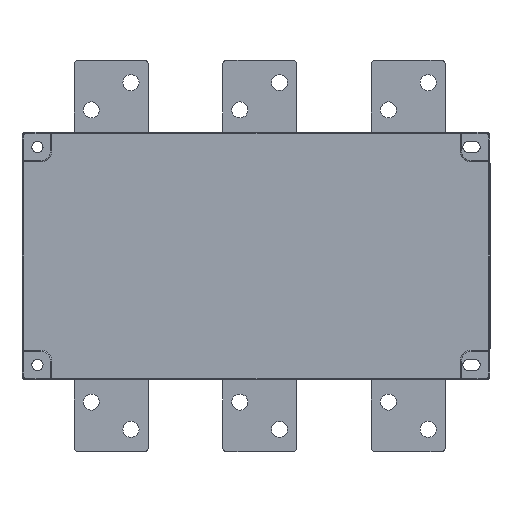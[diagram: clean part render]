
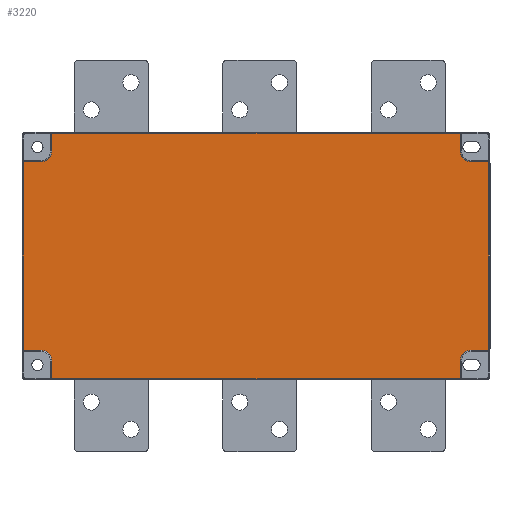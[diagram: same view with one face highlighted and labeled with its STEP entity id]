
A CAD part, front view. The second image highlights one B-rep face of the part: STEP entity #3220.
In plain terms, the highlighted planar face has unit normal (0, -1, 0).
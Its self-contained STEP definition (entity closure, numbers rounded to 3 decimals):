
#15=CARTESIAN_POINT('',(-174.,0.,-85.));
#16=DIRECTION('',(0.,-1.,0.));
#17=DIRECTION('',(1.,0.,0.));
#18=AXIS2_PLACEMENT_3D('',#15,#16,#17);
#20=DIRECTION('',(-1.,0.,0.));
#21=VECTOR('',#20,14.);
#22=CARTESIAN_POINT('',(-174.,0.,-76.));
#23=LINE('',#22,#21);
#24=CARTESIAN_POINT('',(-174.,0.,85.));
#25=DIRECTION('',(0.,-1.,0.));
#26=DIRECTION('',(0.,0.,-1.));
#27=AXIS2_PLACEMENT_3D('',#24,#25,#26);
#29=DIRECTION('',(0.,0.,1.));
#30=VECTOR('',#29,14.);
#31=CARTESIAN_POINT('',(-165.,0.,85.));
#32=LINE('',#31,#30);
#33=CARTESIAN_POINT('',(174.,0.,85.));
#34=DIRECTION('',(0.,-1.,0.));
#35=DIRECTION('',(-1.,0.,0.));
#36=AXIS2_PLACEMENT_3D('',#33,#34,#35);
#38=DIRECTION('',(1.,0.,0.));
#39=VECTOR('',#38,14.);
#40=CARTESIAN_POINT('',(174.,0.,76.));
#41=LINE('',#40,#39);
#42=CARTESIAN_POINT('',(174.,0.,-85.));
#43=DIRECTION('',(0.,-1.,0.));
#44=DIRECTION('',(0.,0.,1.));
#45=AXIS2_PLACEMENT_3D('',#42,#43,#44);
#47=DIRECTION('',(0.,0.,-1.));
#48=VECTOR('',#47,14.);
#49=CARTESIAN_POINT('',(165.,0.,-85.));
#50=LINE('',#49,#48);
#55=DIRECTION('',(1.,0.,0.));
#56=VECTOR('',#55,330.);
#57=CARTESIAN_POINT('',(-165.,0.,-99.));
#58=LINE('',#57,#56);
#1450=DIRECTION('',(0.,0.,1.));
#1451=VECTOR('',#1450,152.);
#1452=CARTESIAN_POINT('',(188.,0.,-76.));
#1453=LINE('',#1452,#1451);
#1470=DIRECTION('',(1.,0.,0.));
#1471=VECTOR('',#1470,14.);
#1472=CARTESIAN_POINT('',(174.,0.,-76.));
#1473=LINE('',#1472,#1471);
#1858=DIRECTION('',(0.,0.,1.));
#1859=VECTOR('',#1858,14.);
#1860=CARTESIAN_POINT('',(165.,0.,85.));
#1861=LINE('',#1860,#1859);
#1882=DIRECTION('',(-1.,0.,0.));
#1883=VECTOR('',#1882,330.);
#1884=CARTESIAN_POINT('',(165.,0.,99.));
#1885=LINE('',#1884,#1883);
#1956=DIRECTION('',(-1.,0.,0.));
#1957=VECTOR('',#1956,14.);
#1958=CARTESIAN_POINT('',(-174.,0.,76.));
#1959=LINE('',#1958,#1957);
#1980=DIRECTION('',(0.,0.,-1.));
#1981=VECTOR('',#1980,152.);
#1982=CARTESIAN_POINT('',(-188.,0.,76.));
#1983=LINE('',#1982,#1981);
#2054=DIRECTION('',(0.,0.,-1.));
#2055=VECTOR('',#2054,14.);
#2056=CARTESIAN_POINT('',(-165.,0.,-85.));
#2057=LINE('',#2056,#2055);
#2479=CARTESIAN_POINT('',(-165.,0.,-99.));
#2480=CARTESIAN_POINT('',(165.,0.,-99.));
#2481=VERTEX_POINT('',#2479);
#2482=VERTEX_POINT('',#2480);
#2483=CARTESIAN_POINT('',(-165.,0.,-85.));
#2484=VERTEX_POINT('',#2483);
#2485=CARTESIAN_POINT('',(-174.,0.,-76.));
#2486=VERTEX_POINT('',#2485);
#2487=CARTESIAN_POINT('',(-188.,0.,-76.));
#2488=VERTEX_POINT('',#2487);
#2489=CARTESIAN_POINT('',(-188.,0.,76.));
#2490=VERTEX_POINT('',#2489);
#2491=CARTESIAN_POINT('',(-174.,0.,76.));
#2492=VERTEX_POINT('',#2491);
#2493=CARTESIAN_POINT('',(-165.,0.,85.));
#2494=VERTEX_POINT('',#2493);
#2495=CARTESIAN_POINT('',(-165.,0.,99.));
#2496=VERTEX_POINT('',#2495);
#2497=CARTESIAN_POINT('',(165.,0.,99.));
#2498=VERTEX_POINT('',#2497);
#2499=CARTESIAN_POINT('',(165.,0.,85.));
#2500=VERTEX_POINT('',#2499);
#2501=CARTESIAN_POINT('',(174.,0.,76.));
#2502=VERTEX_POINT('',#2501);
#2503=CARTESIAN_POINT('',(188.,0.,76.));
#2504=VERTEX_POINT('',#2503);
#2505=CARTESIAN_POINT('',(188.,0.,-76.));
#2506=VERTEX_POINT('',#2505);
#2507=CARTESIAN_POINT('',(174.,0.,-76.));
#2508=VERTEX_POINT('',#2507);
#2509=CARTESIAN_POINT('',(165.,0.,-85.));
#2510=VERTEX_POINT('',#2509);
#3181=CARTESIAN_POINT('',(0.,0.,0.));
#3182=DIRECTION('',(0.,1.,0.));
#3183=DIRECTION('',(1.,0.,0.));
#3184=AXIS2_PLACEMENT_3D('',#3181,#3182,#3183);
#3185=PLANE('',#3184);
#3187=ORIENTED_EDGE('',*,*,#3186,.F.);
#3189=ORIENTED_EDGE('',*,*,#3188,.F.);
#3191=ORIENTED_EDGE('',*,*,#3190,.T.);
#3193=ORIENTED_EDGE('',*,*,#3192,.T.);
#3195=ORIENTED_EDGE('',*,*,#3194,.F.);
#3197=ORIENTED_EDGE('',*,*,#3196,.F.);
#3199=ORIENTED_EDGE('',*,*,#3198,.T.);
#3201=ORIENTED_EDGE('',*,*,#3200,.T.);
#3203=ORIENTED_EDGE('',*,*,#3202,.F.);
#3205=ORIENTED_EDGE('',*,*,#3204,.F.);
#3207=ORIENTED_EDGE('',*,*,#3206,.T.);
#3209=ORIENTED_EDGE('',*,*,#3208,.T.);
#3211=ORIENTED_EDGE('',*,*,#3210,.F.);
#3213=ORIENTED_EDGE('',*,*,#3212,.F.);
#3215=ORIENTED_EDGE('',*,*,#3214,.T.);
#3217=ORIENTED_EDGE('',*,*,#3216,.T.);
#3218=EDGE_LOOP('',(#3187,#3189,#3191,#3193,#3195,#3197,#3199,#3201,#3203,#3205,
#3207,#3209,#3211,#3213,#3215,#3217));
#3219=FACE_OUTER_BOUND('',#3218,.F.);
#19=CIRCLE('',#18,9.);
#28=CIRCLE('',#27,9.);
#37=CIRCLE('',#36,9.);
#46=CIRCLE('',#45,9.);
#3186=EDGE_CURVE('',#2481,#2482,#58,.T.);
#3188=EDGE_CURVE('',#2484,#2481,#2057,.T.);
#3190=EDGE_CURVE('',#2484,#2486,#19,.T.);
#3192=EDGE_CURVE('',#2486,#2488,#23,.T.);
#3194=EDGE_CURVE('',#2490,#2488,#1983,.T.);
#3196=EDGE_CURVE('',#2492,#2490,#1959,.T.);
#3198=EDGE_CURVE('',#2492,#2494,#28,.T.);
#3200=EDGE_CURVE('',#2494,#2496,#32,.T.);
#3202=EDGE_CURVE('',#2498,#2496,#1885,.T.);
#3204=EDGE_CURVE('',#2500,#2498,#1861,.T.);
#3206=EDGE_CURVE('',#2500,#2502,#37,.T.);
#3208=EDGE_CURVE('',#2502,#2504,#41,.T.);
#3210=EDGE_CURVE('',#2506,#2504,#1453,.T.);
#3212=EDGE_CURVE('',#2508,#2506,#1473,.T.);
#3214=EDGE_CURVE('',#2508,#2510,#46,.T.);
#3216=EDGE_CURVE('',#2510,#2482,#50,.T.);
#3220=ADVANCED_FACE('',(#3219),#3185,.F.);
